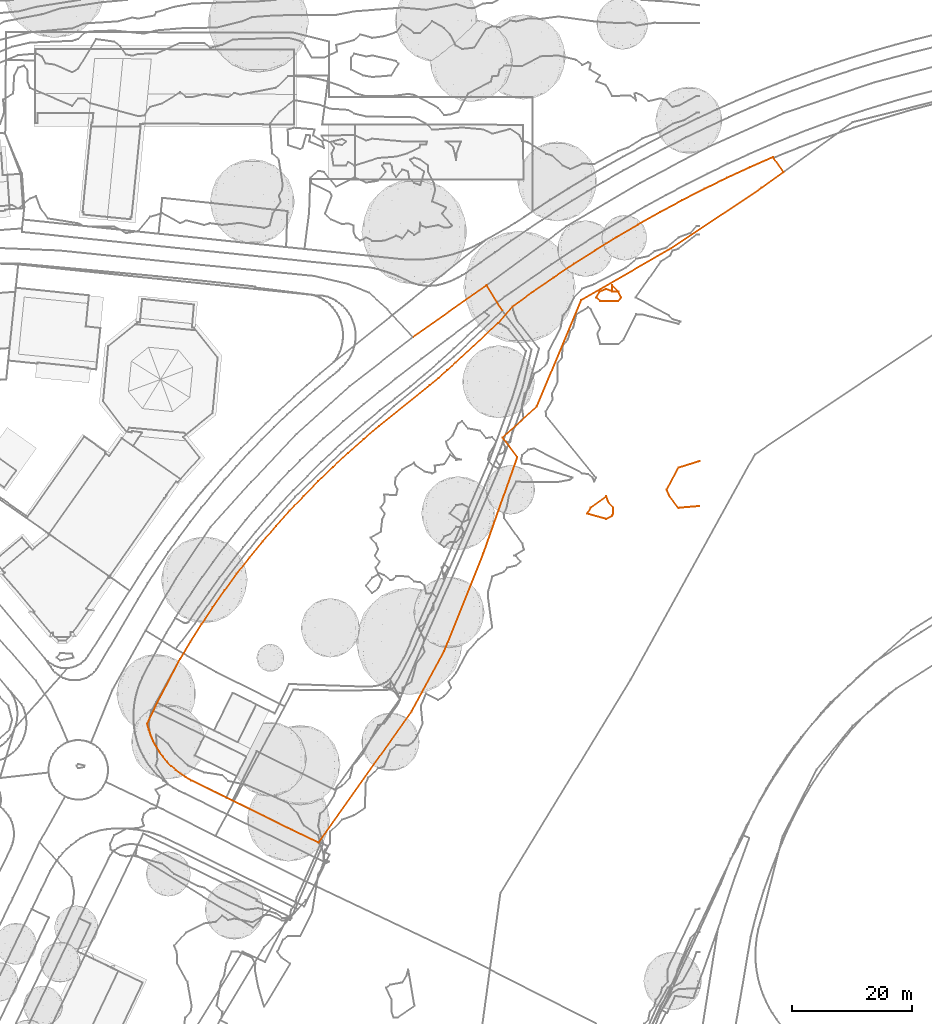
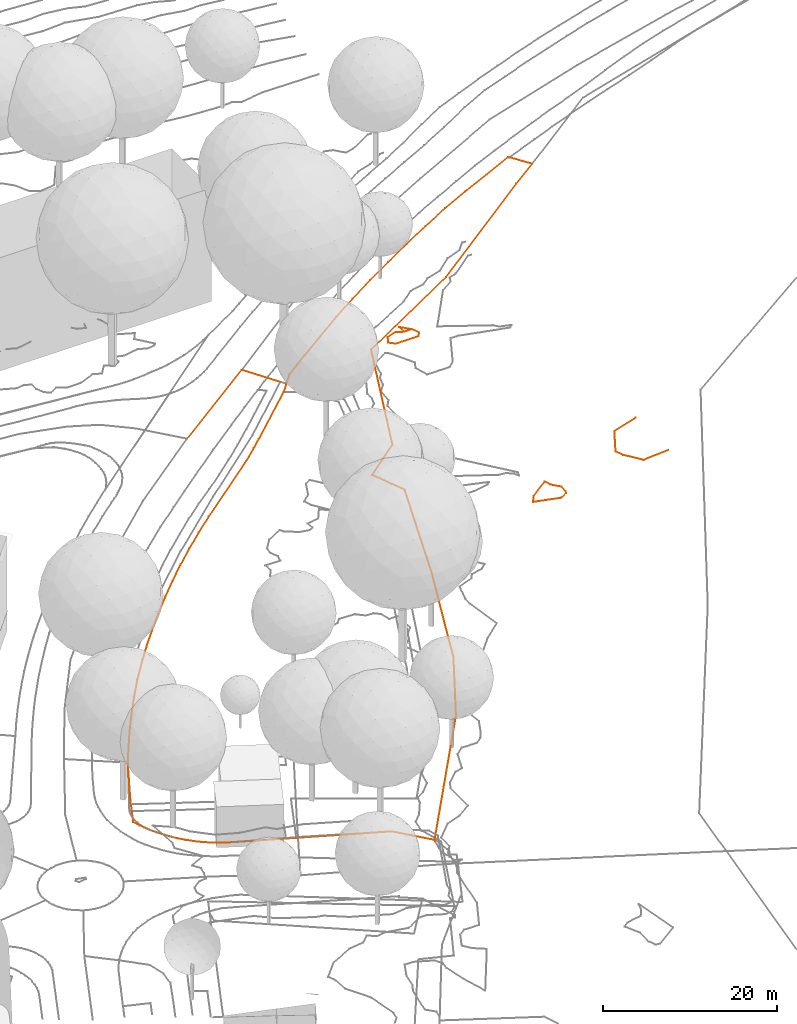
# Not in any storey, part 197 of 494: 6 proxies.
"""IFC2X3 model written with IfcOpenShell, lengths in metres."""

import ifcopenshell
import ifcopenshell.guid

model = None  # the IFC model being written
_history = None  # IfcOwnerHistory: only IFC2X3 demands one
_inside = {}  # id of a spatial element -> (the spatial element, [elements in it])
_under = {}  # id of a project, library or spatial element -> (it, [spatial elements below it])
_declared = {}  # id of a project -> (the project, [libraries it declares])
_typed = {}  # id of a type object -> (the type object, [elements of that type])
_made_of = {}  # id of a material, layer set ... -> (it, [elements and type objects made of it])


def new_model(schema):
    """Start an empty IFC model of exactly this schema.

    Asked for "IFC4X3", IfcOpenShell would pick the latest addendum, in which some entities
    have other attributes; the version numbers below select the first issue.
    IFC2X3 requires an IfcOwnerHistory on every rooted entity: one is made here for all.
    """
    global model, _history
    if schema == "IFC4X3":
        model = ifcopenshell.file(schema_version=(4, 3, 0, 0))
    else:
        model = ifcopenshell.file(schema=schema)
    _inside.clear()
    _under.clear()
    _declared.clear()
    _typed.clear()
    _made_of.clear()
    _history = None
    if model.schema == "IFC2X3":
        org = make("IfcOrganization", Name="unknown")
        user = make(
            "IfcPersonAndOrganization",
            ThePerson=make("IfcPerson", FamilyName="unknown"),
            TheOrganization=org,
        )
        app = make(
            "IfcApplication",
            ApplicationDeveloper=org,
            Version="unknown",
            ApplicationFullName="unknown",
            ApplicationIdentifier="unknown",
        )
        _history = make(
            "IfcOwnerHistory",
            OwningUser=user,
            OwningApplication=app,
            ChangeAction="ADDED",
            CreationDate=0,
        )
    return model


def make(cls, **values):
    """One entity of the class cls with the attributes given. An attribute that is None is left unset."""
    return model.create_entity(
        cls, **{name: value for name, value in values.items() if value is not None}
    )


def entity(cls, *values):
    """Any entity or typed value of the class cls, its attributes in the order of the schema. None: left unset."""
    e = model.create_entity(cls)
    for i, value in enumerate(values):
        if value is not None:
            e[i] = value
    return e


def rooted(cls, **values):
    """An entity with a GlobalId (a new one), such as an element, a storey or a relation."""
    return make(cls, GlobalId=ifcopenshell.guid.new(), OwnerHistory=_history, **values)


def si_unit(unit_type, name, prefix=None):
    """IfcSIUnit, for example si_unit("LENGTHUNIT", "METRE", prefix="MILLI")."""
    return make("IfcSIUnit", UnitType=unit_type, Prefix=prefix, Name=name)


def assignment(units):
    """IfcUnitAssignment: the units of a project."""
    return None if units is None else make("IfcUnitAssignment", Units=units)


def point(xyz):
    """IfcCartesianPoint."""
    return None if xyz is None else make("IfcCartesianPoint", Coordinates=xyz)


def direction(xyz):
    """IfcDirection."""
    return None if xyz is None else make("IfcDirection", DirectionRatios=xyz)


def frame(location, z_axis=None, x_axis=None):
    """IfcAxis2Placement3D, a coordinate frame: its origin and axes. An axis left out is left unset."""
    return make(
        "IfcAxis2Placement3D",
        Location=point(location),
        Axis=direction(z_axis),
        RefDirection=direction(x_axis),
    )


def origin_with_axes():
    """The frame at (0, 0, 0) with the z axis (0, 0, 1) and the x axis (1, 0, 0) written out."""
    return frame((0.0, 0.0, 0.0), z_axis=(0.0, 0.0, 1.0), x_axis=(1.0, 0.0, 0.0))


def place(relative_to, where):
    """IfcLocalPlacement: puts the frame where relative to a parent placement (None: the world)."""
    return make(
        "IfcLocalPlacement", PlacementRelTo=relative_to, RelativePlacement=where
    )


def context(
    kind, dimensions, precision=None, world=None, true_north=None, identifier=None
):
    """IfcGeometricRepresentationContext, for example the 3D "Model" context."""
    return make(
        "IfcGeometricRepresentationContext",
        ContextIdentifier=identifier,
        ContextType=kind,
        CoordinateSpaceDimension=dimensions,
        Precision=precision,
        WorldCoordinateSystem=world,
        TrueNorth=true_north,
    )


def subcontext(parent, identifier, kind, view, scale=None):
    """IfcGeometricRepresentationSubContext, for example "Body" below "Model"."""
    return make(
        "IfcGeometricRepresentationSubContext",
        ContextIdentifier=identifier,
        ContextType=kind,
        ParentContext=parent,
        TargetScale=scale,
        TargetView=view,
    )


def project(units=None, contexts=None):
    """IfcProject with its units and contexts."""
    return rooted(
        "IfcProject",
        Name="project",
        RepresentationContexts=contexts,
        UnitsInContext=assignment(units),
    )


def shape(context_of_items, identifier, shape_type, items):
    """IfcShapeRepresentation: the items that make up one representation, for example the "Body"."""
    return make(
        "IfcShapeRepresentation",
        ContextOfItems=context_of_items,
        RepresentationIdentifier=identifier,
        RepresentationType=shape_type,
        Items=items,
    )


def made_of(thing, what):
    """Note that an element or type object is made of a material, layer set ...; save() writes the relation."""
    if what is not None:
        _made_of.setdefault(what.id(), (what, []))[1].append(thing)
    return thing


def element(
    cls,
    number,
    at=None,
    inside=None,
    cuts=None,
    type_object=None,
    material=None,
    context=None,
    identifier="Body",
    shape_type=None,
    held_by="IfcProductDefinitionShape",
    body=None,
    shapes=None,
    **own,
):
    """One element of the class cls, such as IfcWall. Its Tag is "e" and its number.

    at: its placement. inside: the storey or other place that contains it. cuts: it is an
    opening in that element (IfcRelVoidsElement). A single representation is given by context,
    identifier, shape_type and body (its items); several are given by shapes. held_by: the class
    of the entity that holds the representations. save() writes the other relations.
    """
    e = rooted(cls, Tag="e%d" % number, ObjectPlacement=at, **own)
    if body is not None:
        shapes = [shape(context, identifier, shape_type, body)]
    if shapes is not None:
        e.Representation = make(held_by, Representations=shapes)
    if inside is not None:
        _inside.setdefault(inside.id(), (inside, []))[1].append(e)
    if cuts is not None:
        rooted(
            "IfcRelVoidsElement", RelatingBuildingElement=cuts, RelatedOpeningElement=e
        )
    if type_object is not None:
        _typed.setdefault(type_object.id(), (type_object, []))[1].append(e)
    return made_of(e, material)


def aggregate(whole, parts):
    """IfcRelAggregates: a whole, such as a stair, and the parts it consists of."""
    return rooted("IfcRelAggregates", RelatingObject=whole, RelatedObjects=parts)


def save(model, path):
    """Write the relations noted so far, then the file.

    IfcRelAggregates (storeys below a building ...), IfcRelContainedInSpatialStructure (elements
    in a storey), IfcRelDefinesByType, IfcRelAssociatesMaterial and IfcRelDeclares: one each for
    every whole, place, type object, material and project.
    """
    for whole, parts in _under.values():
        aggregate(whole, parts)
    for where, things in _inside.values():
        rooted(
            "IfcRelContainedInSpatialStructure",
            RelatedElements=things,
            RelatingStructure=where,
        )
    for kind, things in _typed.values():
        rooted("IfcRelDefinesByType", RelatedObjects=things, RelatingType=kind)
    for what, things in _made_of.values():
        rooted("IfcRelAssociatesMaterial", RelatedObjects=things, RelatingMaterial=what)
    for by, libraries in _declared.values():
        rooted("IfcRelDeclares", RelatingContext=by, RelatedDefinitions=libraries)
    model.write(path)


model = new_model("IFC2X3")

# Units and contexts
model_context = context("Model", 3, precision=1e-05, world=origin_with_axes())
body_context = subcontext(model_context, "Body", "Model", "MODEL_VIEW")
ifc_project = project(units=[si_unit("AREAUNIT", "SQUARE_METRE"), si_unit("LENGTHUNIT", "METRE")], contexts=[model_context])

# Proxies
proxy_1_placement = place(None, frame((640.4807320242, 261.6197351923, 502.155), z_axis=(0.0, 0.0, 1.0), x_axis=(1.0, 0.0, 0.0)))
element("IfcBuildingElementProxy", 1, at=proxy_1_placement, Name="Road 126", ObjectType="NOTDEFINED", context=body_context, shape_type="GeometricCurveSet", body=[
    entity("IfcGeometricCurveSet", [entity("IfcPolyline", [entity("IfcCartesianPoint", [0.0, 0.0, 0.0]), entity("IfcCartesianPoint", [12.2479999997, 8.6109997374, 0.179])])]),
])
proxy_2_placement = place(None, frame((652.7287320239, 270.2307349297, 502.334), z_axis=(0.0, 0.0, 1.0), x_axis=(1.0, 0.0, 0.0)))
element("IfcBuildingElementProxy", 2, at=proxy_2_placement, Name="Road 132", ObjectType="NOTDEFINED", context=body_context, shape_type="GeometricCurveSet", body=[
    entity("IfcGeometricCurveSet", [entity("IfcPolyline", [entity("IfcCartesianPoint", [2.6440000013, -4.2589998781, -0.039]), entity("IfcCartesianPoint", [0.0, 0.0, 0.0])])]),
])
proxy_3_placement = place(None, frame((596.1757320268, 197.2277160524, 502.8859528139), z_axis=(0.0, 0.0, 1.0), x_axis=(1.0, 0.0, 0.0)))
element("IfcBuildingElementProxy", 3, at=proxy_3_placement, Name="Cadastre 127", ObjectType="NOTDEFINED", context=body_context, shape_type="GeometricCurveSet", body=[
    entity("IfcGeometricCurveSet", [entity("IfcPolyline", [entity("IfcCartesianPoint", [0.0, 0.0, 0.0]), entity("IfcCartesianPoint", [2.1200000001, 4.341, -0.1982887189]), entity("IfcCartesianPoint", [5.4499999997, 10.6710000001, -0.3287729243]), entity("IfcCartesianPoint", [7.2139999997, 13.6089999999, -0.4387502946]), entity("IfcCartesianPoint", [9.0449999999, 16.5060000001, -0.3926561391]), entity("IfcCartesianPoint", [10.9419999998, 19.3589999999, -0.4071384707]), entity("IfcCartesianPoint", [12.9029999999, 22.169, -0.4064584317]), entity("IfcCartesianPoint", [14.929, 24.933, -0.4349013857]), entity("IfcCartesianPoint", [17.0409999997, 27.628, -0.4387829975]), entity("IfcCartesianPoint", [19.2139999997, 30.274, -0.5261547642]), entity("IfcCartesianPoint", [21.4469999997, 32.8699999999, -0.5295554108]), entity("IfcCartesianPoint", [23.7379999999, 35.4140000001, -0.5691364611]), entity("IfcCartesianPoint", [26.0869999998, 37.905, -0.600953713]), entity("IfcCartesianPoint", [28.4909999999, 40.3489999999, -0.6200748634]), entity("IfcCartesianPoint", [30.9509999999, 42.737, -0.6168632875]), entity("IfcCartesianPoint", [33.4639999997, 45.068, -0.65480945]), entity("IfcCartesianPoint", [36.0290000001, 47.3419999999, -0.655544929]), entity("IfcCartesianPoint", [38.6459999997, 49.557, -0.6656506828]), entity("IfcCartesianPoint", [47.0350000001, 56.328, -0.7035985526]), entity("IfcCartesianPoint", [48.5269999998, 57.561, -0.6799127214]), entity("IfcCartesianPoint", [49.9839999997, 58.835, -0.657799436]), entity("IfcCartesianPoint", [51.4049999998, 60.148, -0.6485467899]), entity("IfcCartesianPoint", [58.4839999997, 66.719, -0.5737013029]), entity("IfcCartesianPoint", [60.8640000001, 69.45, -0.5055379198]), entity("IfcCartesianPoint", [64.2489999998, 71.8929999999, -0.5362137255]), entity("IfcCartesianPoint", [67.679, 74.2719999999, -0.5230281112]), entity("IfcCartesianPoint", [71.1540000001, 76.585, -0.4192105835]), entity("IfcCartesianPoint", [74.6719999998, 78.8319999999, -0.4144379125]), entity("IfcCartesianPoint", [78.2319999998, 81.0190000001, -0.4032687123]), entity("IfcCartesianPoint", [81.8330000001, 83.139, -0.4368244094]), entity("IfcCartesianPoint", [85.4729999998, 85.1899999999, -0.3886613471]), entity("IfcCartesianPoint", [89.1510000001, 87.173, -0.3596120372]), entity("IfcCartesianPoint", [92.8739999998, 89.078, -0.2958540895]), entity("IfcCartesianPoint", [96.6319999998, 90.912, -0.3334616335]), entity("IfcCartesianPoint", [100.4240000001, 92.675, -0.3890043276]), entity("IfcCartesianPoint", [104.2489999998, 94.365, -0.3055462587]), entity("IfcCartesianPoint", [106.0490000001, 91.865, -0.3700453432]), entity("IfcCartesianPoint", [102.4100000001, 89.2339999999, -0.2907458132]), entity("IfcCartesianPoint", [87.2110000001, 79.1129999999, -1.9415038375]), entity("IfcCartesianPoint", [72.3130000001, 70.5209999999, -1.7182150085]), entity("IfcCartesianPoint", [64.8939999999, 52.7590000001, -1.6690151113]), entity("IfcCartesianPoint", [59.2239999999, 47.648, -0.8745978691]), entity("IfcCartesianPoint", [61.6740000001, 44.368, -1.8117515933]), entity("IfcCartesianPoint", [55.9950000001, 28.3060000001, -1.7445881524]), entity("IfcCartesianPoint", [49.4759999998, 12.0049999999, -1.4552846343]), entity("IfcCartesianPoint", [44.0269999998, 1.9939999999, -1.6030538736]), entity("IfcCartesianPoint", [28.548, -19.879, -0.4527114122]), entity("IfcCartesianPoint", [24.0889999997, -17.7290000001, 1.0072749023]), entity("IfcCartesianPoint", [7.3300000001, -9.49, 0.3291756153]), entity("IfcCartesianPoint", [6.4359999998, -8.977, 0.2900642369]), entity("IfcCartesianPoint", [5.5809999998, -8.4010000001, 0.2537324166]), entity("IfcCartesianPoint", [4.7689999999, -7.767, 0.2145171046]), entity("IfcCartesianPoint", [4.003, -7.0760000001, 0.1995252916]), entity("IfcCartesianPoint", [3.2889999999, -6.3319999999, 0.187946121]), entity("IfcCartesianPoint", [2.6299999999, -5.54, 0.160479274]), entity("IfcCartesianPoint", [2.031, -4.702, 0.1568412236]), entity("IfcCartesianPoint", [1.4929999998, -3.825, 0.1514744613]), entity("IfcCartesianPoint", [1.0189999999, -2.9110000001, 0.1070874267]), entity("IfcCartesianPoint", [0.611, -1.9650000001, 0.0849123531]), entity("IfcCartesianPoint", [0.27, -0.9939999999, 0.0381171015]), entity("IfcCartesianPoint", [0.0, 0.0, 0.0])])]),
])
proxy_4_placement = place(None, frame((671.0057781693, 268.1707160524, 501.0), z_axis=(0.0, 0.0, 1.0), x_axis=(1.0, 0.0, 0.0)))
element("IfcBuildingElementProxy", 4, at=proxy_4_placement, Name="Contour Line 501.0 m", ObjectType="NOTDEFINED", context=body_context, shape_type="GeometricCurveSet", body=[
    entity("IfcGeometricCurveSet", [entity("IfcPolyline", [entity("IfcCartesianPoint", [3.6719538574, -0.5929836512, 0.0]), entity("IfcCartesianPoint", [4.1167673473, 0.0, 0.0]), entity("IfcCartesianPoint", [3.6742848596, 1.0, 0.0]), entity("IfcCartesianPoint", [2.6719538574, 2.0730137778, 0.0]), entity("IfcCartesianPoint", [2.6719538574, 1.0199335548, 0.0]), entity("IfcCartesianPoint", [3.4901356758, 1.0, 0.0]), entity("IfcCartesianPoint", [2.6719538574, 0.99, 0.0]), entity("IfcCartesianPoint", [1.6719538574, 1.4264045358, 0.0]), entity("IfcCartesianPoint", [0.5110438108, 1.0, 0.0]), entity("IfcCartesianPoint", [0.0, 0.0, 0.0]), entity("IfcCartesianPoint", [0.6719538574, -0.6101472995, 0.0]), entity("IfcCartesianPoint", [3.6719538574, -0.5929836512, 0.0])])]),
])
proxy_5_placement = place(None, frame((682.7396466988, 236.1707160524, 501.0), z_axis=(0.0, 0.0, 1.0), x_axis=(1.0, 0.0, 0.0)))
element("IfcBuildingElementProxy", 5, at=proxy_5_placement, Name="Contour Line 501.0 m", ObjectType="NOTDEFINED", context=body_context, shape_type="GeometricCurveSet", body=[
    entity("IfcGeometricCurveSet", [entity("IfcPolyline", [entity("IfcCartesianPoint", [5.4380853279, -2.7307032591, 0.0]), entity("IfcCartesianPoint", [1.9380853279, -3.0329670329, 0.0]), entity("IfcCartesianPoint", [0.4130548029, -1.0, 0.0]), entity("IfcCartesianPoint", [0.0, 0.0, 0.0]), entity("IfcCartesianPoint", [1.9380853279, 3.647706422, 0.0]), entity("IfcCartesianPoint", [5.4380853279, 4.76369863, 0.0])])]),
])
proxy_6_placement = place(None, frame((669.4829951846, 232.1707160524, 501.0), z_axis=(0.0, 0.0, 1.0), x_axis=(1.0, 0.0, 0.0)))
element("IfcBuildingElementProxy", 6, at=proxy_6_placement, Name="Contour Line 501.0 m", ObjectType="NOTDEFINED", context=body_context, shape_type="GeometricCurveSet", body=[
    entity("IfcGeometricCurveSet", [entity("IfcPolyline", [entity("IfcCartesianPoint", [4.29881272, 0.0, 0.0]), entity("IfcCartesianPoint", [4.1947368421, -0.3306188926, 0.0]), entity("IfcCartesianPoint", [3.1947368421, -0.8914956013, 0.0]), entity("IfcCartesianPoint", [0.0, 0.0, 0.0]), entity("IfcCartesianPoint", [0.6142770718, 1.0, 0.0]), entity("IfcCartesianPoint", [3.1947368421, 2.8991596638, 0.0]), entity("IfcCartesianPoint", [3.4828876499, 2.0, 0.0]), entity("IfcCartesianPoint", [4.3568990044, 1.0, 0.0]), entity("IfcCartesianPoint", [4.29881272, 0.0, 0.0])])]),
])

save(model, "model.ifc")
